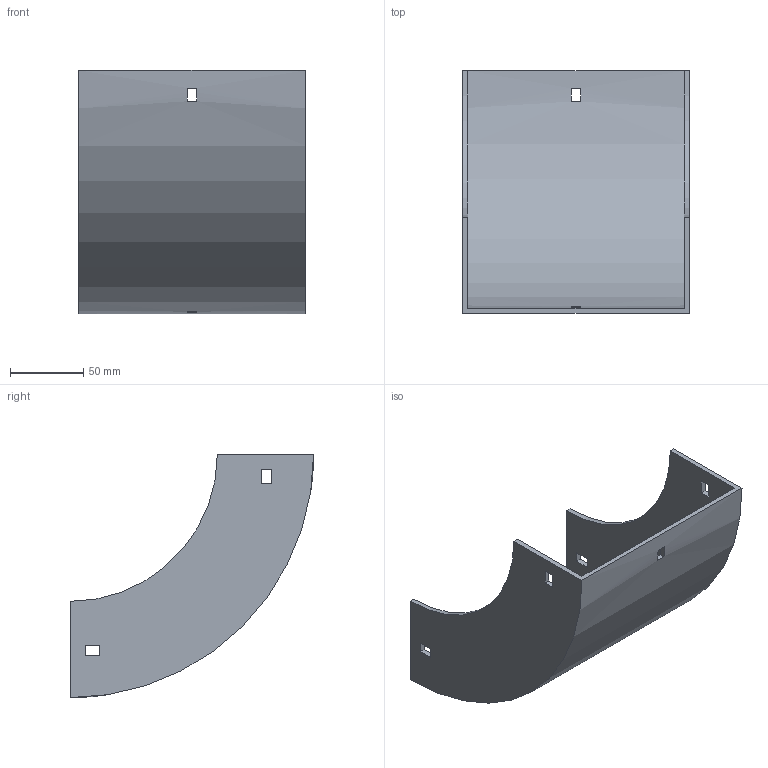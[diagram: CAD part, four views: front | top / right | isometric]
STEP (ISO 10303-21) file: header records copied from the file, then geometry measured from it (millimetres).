
FILE_DESCRIPTION (( 'STEP AP214' ), '1' );
FILE_NAME ('30B1H150.step', '2025-02-21T09:50:18', ( '' ), ( '' ), 'SwSTEP 2.0', 'SolidWorks 2023', '' );
FILE_SCHEMA (( 'AUTOMOTIVE_DESIGN' ));
Length unit declared in the file: millimetre
Products named in the file (1): 30B1H150
Bounding box: 154 x 165.5 x 165.5 mm (x, y, z)
Volume: 226554.9 mm3; surface area: 133218.9 mm2
Topology: 1 solids, 1 shells, 34 faces, 96 edges, 64 vertices
Faces by surface type: plane 30, cylinder 4
Entity records: 1143 total; most frequent: CARTESIAN_POINT 195, ORIENTED_EDGE 192, DIRECTION 182, EDGE_CURVE 96, LINE 80, VECTOR 80, VERTEX_POINT 64, AXIS2_PLACEMENT_3D 51
